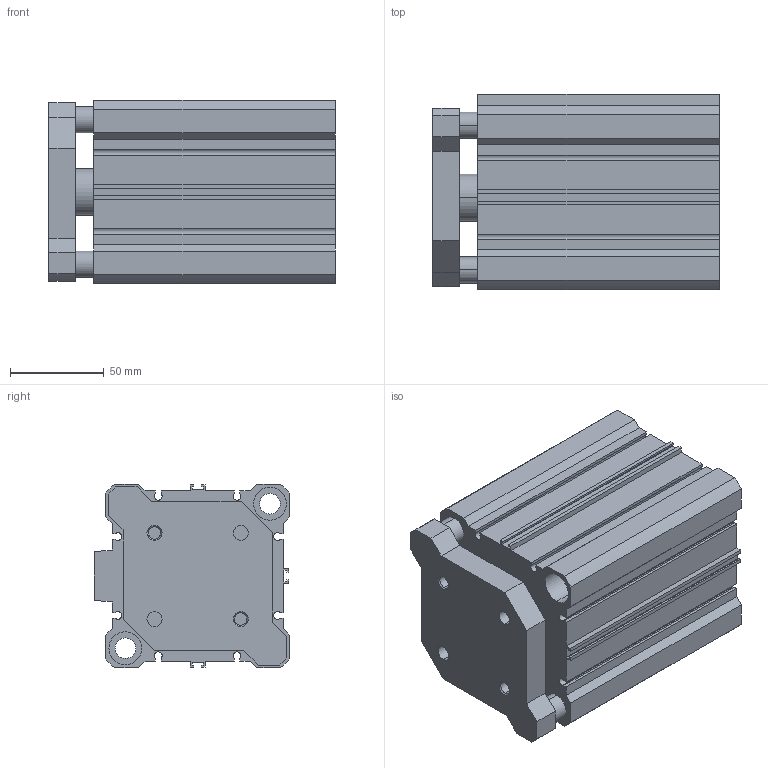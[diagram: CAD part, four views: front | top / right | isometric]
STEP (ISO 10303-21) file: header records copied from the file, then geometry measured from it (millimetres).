
FILE_DESCRIPTION (( 'STEP AP203' ), '1' );
FILE_NAME ('CCMG80-75.STEP', '2020-04-01T18:52:23', ( '' ), ( '' ), 'SwSTEP 2.0', 'SolidWorks 2019', '' );
FILE_SCHEMA (( 'CONFIG_CONTROL_DESIGN' ));
Length unit declared in the file: millimetre
Products named in the file (1): CCMG80-75
Bounding box: 152.5 x 104 x 98 mm (x, y, z)
Volume: 861832.9 mm3; surface area: 185355.1 mm2
Topology: 2 solids, 2 shells, 194 faces, 518 edges, 338 vertices
Faces by surface type: plane 114, cylinder 64, cone 16
Entity records: 6105 total; most frequent: CARTESIAN_POINT 1047, DIRECTION 1044, ORIENTED_EDGE 1028, EDGE_CURVE 514, VECTOR 374, LINE 374, VERTEX_POINT 338, AXIS2_PLACEMENT_3D 335
